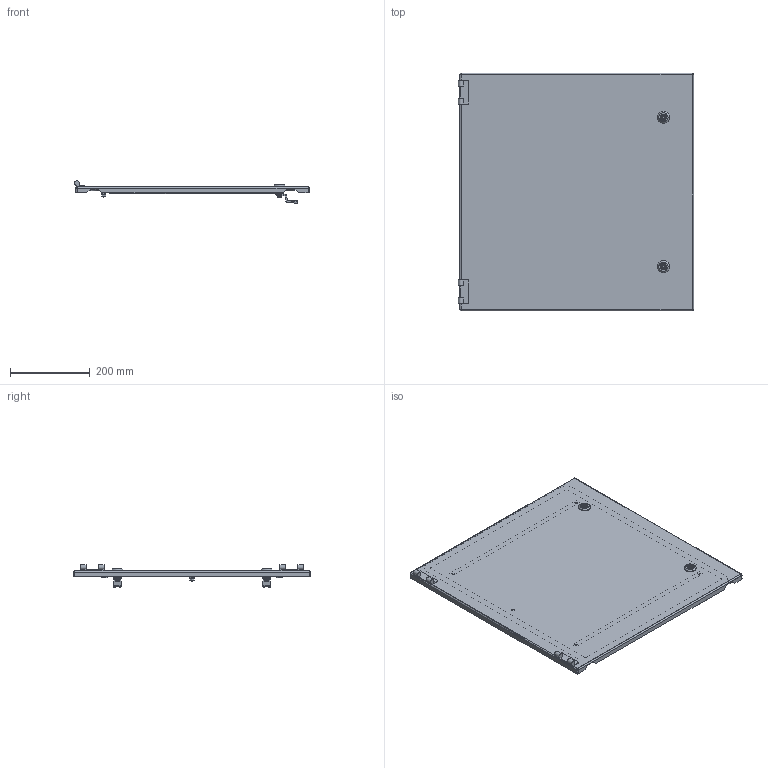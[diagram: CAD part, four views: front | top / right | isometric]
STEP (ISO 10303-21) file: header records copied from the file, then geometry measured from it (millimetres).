
FILE_DESCRIPTION (( 'STEP AP214' ), '1' );
FILE_NAME ('D 60.60 M Äâåðü ñåêöèîííàÿ ãëóõàÿ.STEP', '2016-10-10T07:04:17', ( '' ), ( '' ), 'SwSTEP 2.0', 'SolidWorks 2012', '' );
FILE_SCHEMA (( 'AUTOMOTIVE_DESIGN' ));
Length unit declared in the file: millimetre
Products named in the file (1): D 60.60 M Äâåðü ñåêöèîííàÿ ãëóõàÿ
Bounding box: 588.2 x 594 x 56.33 mm (x, y, z)
Volume: 1049020.5 mm3; surface area: 937674.6 mm2
Topology: 12 solids, 12 shells, 685 faces, 1774 edges, 1130 vertices
Faces by surface type: plane 299, cylinder 274, cone 64, bspline 22, torus 18, sphere 8
Entity records: 22427 total; most frequent: CARTESIAN_POINT 5116, DIRECTION 3584, ORIENTED_EDGE 3532, EDGE_CURVE 1766, AXIS2_PLACEMENT_3D 1316, VERTEX_POINT 1130, VECTOR 952, LINE 952
